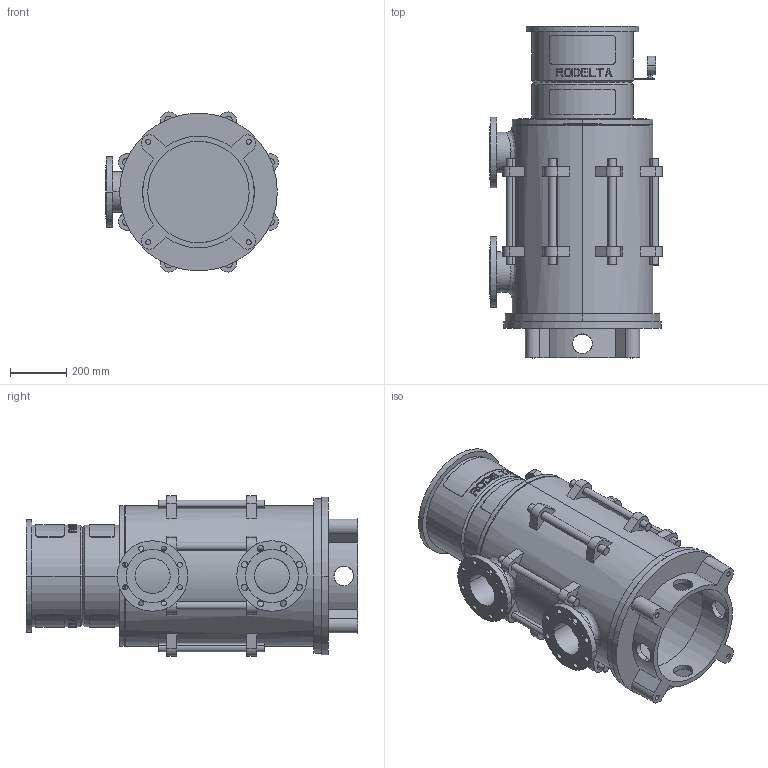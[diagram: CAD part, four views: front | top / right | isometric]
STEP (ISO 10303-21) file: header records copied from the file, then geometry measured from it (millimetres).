
FILE_DESCRIPTION((''),'2;1');
FILE_NAME('LS5_3TR_0GR_TOT_30KW','2023-08-08T',('Lyritlocal'),(''),'PRO/ENGINEER BY PARAMETRIC TECHNOLOGY CORPORATION, 2016360','PRO/ENGINEER BY PARAMETRIC TECHNOLOGY CORPORATION, 2016360','');
FILE_SCHEMA(('CONFIG_CONTROL_DESIGN'));
Length unit declared in the file: millimetre
Products named in the file (1): LS5_3TR_0GR_TOT_30KW
Bounding box: 614.04 x 1178 x 568.08 mm (x, y, z)
Volume: 34910278.7 mm3; surface area: 4909522.1 mm2
Topology: 3 solids, 7 shells, 672 faces, 1747 edges, 1158 vertices
Faces by surface type: plane 414, cylinder 242, cone 12, bspline 4
Entity records: 21988 total; most frequent: CARTESIAN_POINT 5544, ORIENTED_EDGE 3478, DIRECTION 3269, EDGE_CURVE 1747, AXIS2_PLACEMENT_3D 1241, VERTEX_POINT 1158, EDGE_LOOP 809, VECTOR 787
